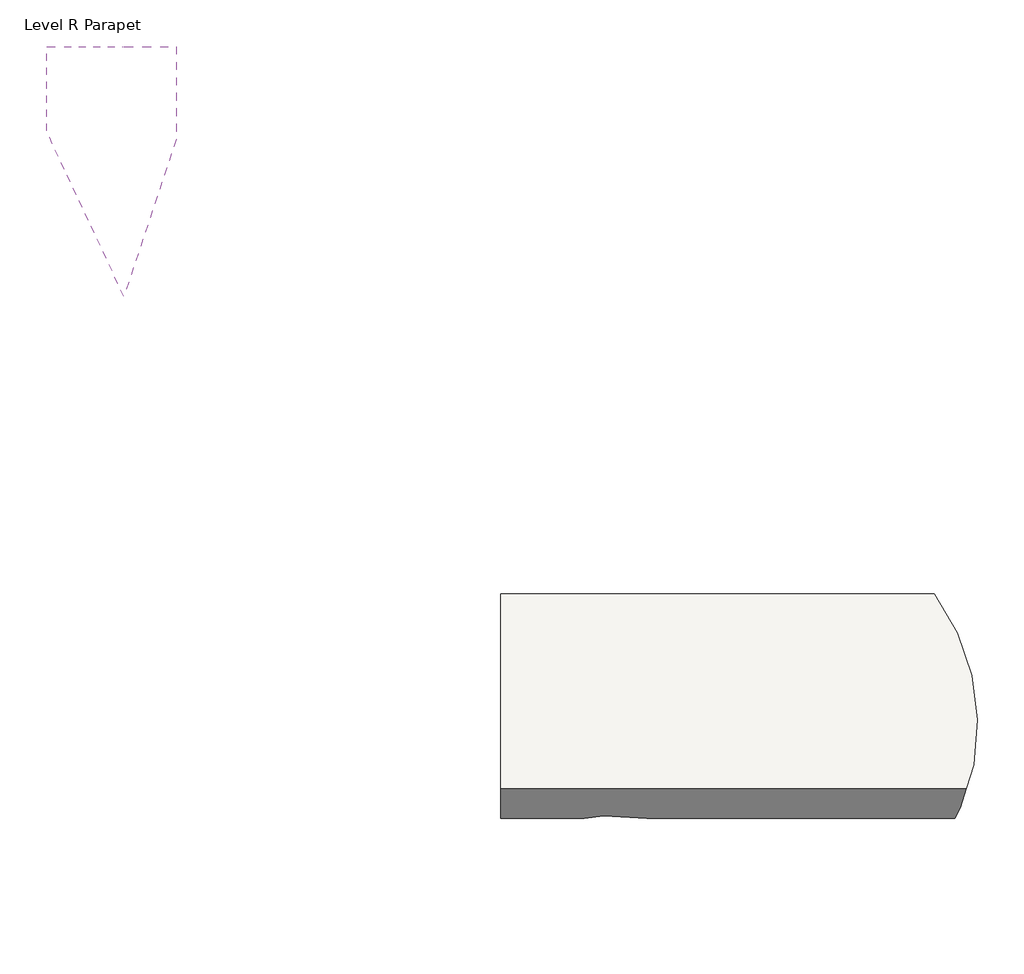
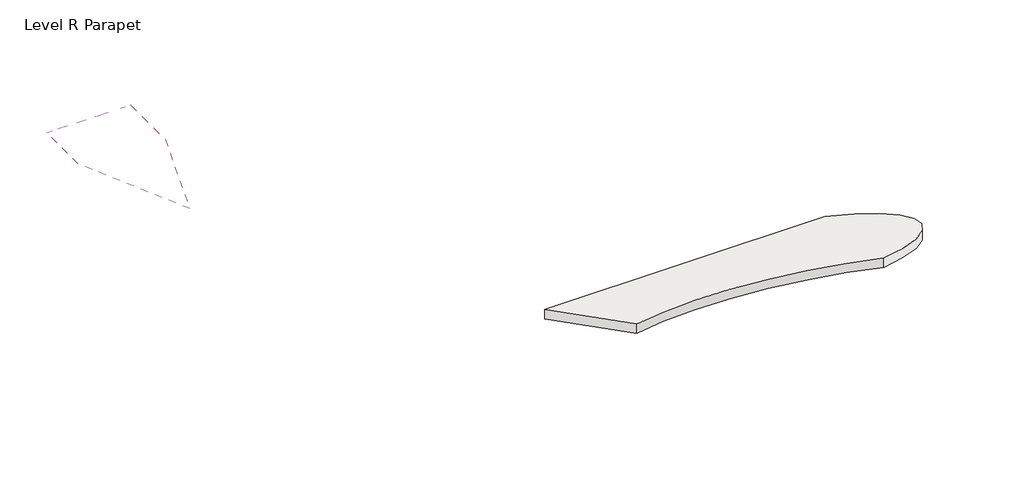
# One storey: 2 roofs.
"""IFC4 building model written with IfcOpenShell, lengths in millimetres."""

import ifcopenshell
import ifcopenshell.guid

model = None  # the IFC model being written
_history = None  # IfcOwnerHistory: only IFC2X3 demands one
_inside = {}  # id of a spatial element -> (the spatial element, [elements in it])
_under = {}  # id of a project, library or spatial element -> (it, [spatial elements below it])
_declared = {}  # id of a project -> (the project, [libraries it declares])
_typed = {}  # id of a type object -> (the type object, [elements of that type])
_made_of = {}  # id of a material, layer set ... -> (it, [elements and type objects made of it])


def new_model(schema):
    """Start an empty IFC model of exactly this schema.

    Asked for "IFC4X3", IfcOpenShell would pick the latest addendum, in which some entities
    have other attributes; the version numbers below select the first issue.
    IFC2X3 requires an IfcOwnerHistory on every rooted entity: one is made here for all.
    """
    global model, _history
    if schema == "IFC4X3":
        model = ifcopenshell.file(schema_version=(4, 3, 0, 0))
    else:
        model = ifcopenshell.file(schema=schema)
    _inside.clear()
    _under.clear()
    _declared.clear()
    _typed.clear()
    _made_of.clear()
    _history = None
    if model.schema == "IFC2X3":
        org = make("IfcOrganization", Name="unknown")
        user = make(
            "IfcPersonAndOrganization",
            ThePerson=make("IfcPerson", FamilyName="unknown"),
            TheOrganization=org,
        )
        app = make(
            "IfcApplication",
            ApplicationDeveloper=org,
            Version="unknown",
            ApplicationFullName="unknown",
            ApplicationIdentifier="unknown",
        )
        _history = make(
            "IfcOwnerHistory",
            OwningUser=user,
            OwningApplication=app,
            ChangeAction="ADDED",
            CreationDate=0,
        )
    return model


def make(cls, **values):
    """One entity of the class cls with the attributes given. An attribute that is None is left unset."""
    return model.create_entity(
        cls, **{name: value for name, value in values.items() if value is not None}
    )


def rooted(cls, **values):
    """An entity with a GlobalId (a new one), such as an element, a storey or a relation."""
    return make(cls, GlobalId=ifcopenshell.guid.new(), OwnerHistory=_history, **values)


def si_unit(unit_type, name, prefix=None):
    """IfcSIUnit, for example si_unit("LENGTHUNIT", "METRE", prefix="MILLI")."""
    return make("IfcSIUnit", UnitType=unit_type, Prefix=prefix, Name=name)


def assignment(units):
    """IfcUnitAssignment: the units of a project."""
    return None if units is None else make("IfcUnitAssignment", Units=units)


def point(xyz):
    """IfcCartesianPoint."""
    return None if xyz is None else make("IfcCartesianPoint", Coordinates=xyz)


def direction(xyz):
    """IfcDirection."""
    return None if xyz is None else make("IfcDirection", DirectionRatios=xyz)


def frame(location, z_axis=None, x_axis=None):
    """IfcAxis2Placement3D, a coordinate frame: its origin and axes. An axis left out is left unset."""
    return make(
        "IfcAxis2Placement3D",
        Location=point(location),
        Axis=direction(z_axis),
        RefDirection=direction(x_axis),
    )


def origin():
    """The frame at (0, 0, 0) with its axes left unset."""
    return frame((0.0, 0.0, 0.0))


def place(relative_to, where):
    """IfcLocalPlacement: puts the frame where relative to a parent placement (None: the world)."""
    return make(
        "IfcLocalPlacement", PlacementRelTo=relative_to, RelativePlacement=where
    )


def context(
    kind, dimensions, precision=None, world=None, true_north=None, identifier=None
):
    """IfcGeometricRepresentationContext, for example the 3D "Model" context."""
    return make(
        "IfcGeometricRepresentationContext",
        ContextIdentifier=identifier,
        ContextType=kind,
        CoordinateSpaceDimension=dimensions,
        Precision=precision,
        WorldCoordinateSystem=world,
        TrueNorth=true_north,
    )


def project(units=None, contexts=None):
    """IfcProject with its units and contexts."""
    return rooted(
        "IfcProject",
        Name="project",
        RepresentationContexts=contexts,
        UnitsInContext=assignment(units),
    )


def spatial(cls, under=None, at=None, **own):
    """A site, building, storey or space (cls), placed at a placement, below another one or the project."""
    s = rooted(cls, ObjectPlacement=at, **own)
    if under is not None:
        _under.setdefault(under.id(), (under, []))[1].append(s)
    return s


def polyline(points):
    """IfcPolyline through the points."""
    return make("IfcPolyline", Points=[point(p) for p in points])


def ellipse_curve(where, semi_axis1, semi_axis2):
    """IfcEllipse in the frame where."""
    return make(
        "IfcEllipse", Position=where, SemiAxis1=semi_axis1, SemiAxis2=semi_axis2
    )


def faces_of(points, faces, orient=None, outer=None):
    """IfcFace entities. A face is a list of loops; a loop is a list of indices into points, from 0.

    orient and outer hold one flag for each loop. By default every Orientation is true, the
    first loop of a face is its IfcFaceOuterBound and the others are IfcFaceBound.
    """
    made = []
    for i, loops in enumerate(faces):
        bounds = []
        for j, loop in enumerate(loops):
            is_outer = j == 0 if outer is None else outer[i][j]
            bounds.append(
                make(
                    "IfcFaceOuterBound" if is_outer else "IfcFaceBound",
                    Bound=make("IfcPolyLoop", Polygon=[points[k] for k in loop]),
                    Orientation=True if orient is None else orient[i][j],
                )
            )
        made.append(make("IfcFace", Bounds=bounds))
    return made


def faceted_brep(points, faces, orient=None, outer=None, voids=None):
    """IfcFacetedBrep: a solid bounded by flat faces; with voids (closed shells), ...WithVoids."""
    shared = [point(p) for p in points]
    hull = make("IfcClosedShell", CfsFaces=faces_of(shared, faces, orient, outer))
    if voids is None:
        return make("IfcFacetedBrep", Outer=hull)
    return make(
        "IfcFacetedBrepWithVoids",
        Outer=hull,
        Voids=[
            make(cls, CfsFaces=faces_of(shared, fs, o, b)) for cls, fs, o, b in voids
        ],
    )


def shape(context_of_items, identifier, shape_type, items):
    """IfcShapeRepresentation: the items that make up one representation, for example the "Body"."""
    return make(
        "IfcShapeRepresentation",
        ContextOfItems=context_of_items,
        RepresentationIdentifier=identifier,
        RepresentationType=shape_type,
        Items=items,
    )


def made_of(thing, what):
    """Note that an element or type object is made of a material, layer set ...; save() writes the relation."""
    if what is not None:
        _made_of.setdefault(what.id(), (what, []))[1].append(thing)
    return thing


def element(
    cls,
    number,
    at=None,
    inside=None,
    cuts=None,
    type_object=None,
    material=None,
    context=None,
    identifier="Body",
    shape_type=None,
    held_by="IfcProductDefinitionShape",
    body=None,
    shapes=None,
    **own,
):
    """One element of the class cls, such as IfcWall. Its Tag is "e" and its number.

    at: its placement. inside: the storey or other place that contains it. cuts: it is an
    opening in that element (IfcRelVoidsElement). A single representation is given by context,
    identifier, shape_type and body (its items); several are given by shapes. held_by: the class
    of the entity that holds the representations. save() writes the other relations.
    """
    e = rooted(cls, Tag="e%d" % number, ObjectPlacement=at, **own)
    if body is not None:
        shapes = [shape(context, identifier, shape_type, body)]
    if shapes is not None:
        e.Representation = make(held_by, Representations=shapes)
    if inside is not None:
        _inside.setdefault(inside.id(), (inside, []))[1].append(e)
    if cuts is not None:
        rooted(
            "IfcRelVoidsElement", RelatingBuildingElement=cuts, RelatedOpeningElement=e
        )
    if type_object is not None:
        _typed.setdefault(type_object.id(), (type_object, []))[1].append(e)
    return made_of(e, material)


def aggregate(whole, parts):
    """IfcRelAggregates: a whole, such as a stair, and the parts it consists of."""
    return rooted("IfcRelAggregates", RelatingObject=whole, RelatedObjects=parts)


def save(model, path):
    """Write the relations noted so far, then the file.

    IfcRelAggregates (storeys below a building ...), IfcRelContainedInSpatialStructure (elements
    in a storey), IfcRelDefinesByType, IfcRelAssociatesMaterial and IfcRelDeclares: one each for
    every whole, place, type object, material and project.
    """
    for whole, parts in _under.values():
        aggregate(whole, parts)
    for where, things in _inside.values():
        rooted(
            "IfcRelContainedInSpatialStructure",
            RelatedElements=things,
            RelatingStructure=where,
        )
    for kind, things in _typed.values():
        rooted("IfcRelDefinesByType", RelatedObjects=things, RelatingType=kind)
    for what, things in _made_of.values():
        rooted("IfcRelAssociatesMaterial", RelatedObjects=things, RelatingMaterial=what)
    for by, libraries in _declared.values():
        rooted("IfcRelDeclares", RelatingContext=by, RelatedDefinitions=libraries)
    model.write(path)


def plane_surface(at):
    """IfcPlane: the flat surface through the origin of the frame at, square to its z axis."""
    return make("IfcPlane", Position=at)


def cylinder_surface(at, radius):
    """IfcCylindricalSurface: all points at the distance radius from the z axis of the frame at."""
    return make("IfcCylindricalSurface", Position=at, Radius=radius)


def revolved_surface(curve, axis_point, axis_direction):
    """IfcSurfaceOfRevolution: the curve turned about the line through axis_point along axis_direction."""
    return make(
        "IfcSurfaceOfRevolution",
        SweptCurve=make("IfcArbitraryOpenProfileDef", ProfileType="CURVE", Curve=curve),
        AxisPosition=make("IfcAxis1Placement", Location=point(axis_point), Axis=direction(axis_direction)),
    )


def advanced_brep(points, edges, surfaces, faces):
    """IfcAdvancedBrep: a solid bounded by faces that lie on surfaces and meet in shared edges.

    An edge is (start, end): straight between two places in points (the first is 0);
    or (start, end, curve); or (start, end, curve, False) where it runs against its curve.
    A face is (place in surfaces, loops), or (place, loops, False) where it looks against
    its surface's normal. A loop lists edges by number (the first is 1), with a minus sign
    where the edge is run from its end to its start. The first loop is the outer one.
    """
    corners = [point(p) for p in points]
    vertices = [make("IfcVertexPoint", VertexGeometry=c) for c in corners]
    made = []
    for start, end, *more in edges:
        made.append(
            make(
                "IfcEdgeCurve",
                EdgeStart=vertices[start],
                EdgeEnd=vertices[end],
                EdgeGeometry=more[0] if more else make("IfcPolyline", Points=[corners[start], corners[end]]),
                SameSense=more[1] if len(more) > 1 else True,
            )
        )
    hull = []
    for where, loops, *sense in faces:
        bounds = []
        for j, loop in enumerate(loops):
            ring = [make("IfcOrientedEdge", EdgeElement=made[abs(k) - 1], Orientation=k > 0) for k in loop]
            bounds.append(
                make(
                    "IfcFaceOuterBound" if j == 0 else "IfcFaceBound",
                    Bound=make("IfcEdgeLoop", EdgeList=ring),
                    Orientation=True,
                )
            )
        hull.append(make("IfcAdvancedFace", Bounds=bounds, FaceSurface=surfaces[where], SameSense=sense[0] if sense else True))
    return make("IfcAdvancedBrep", Outer=make("IfcClosedShell", CfsFaces=hull))


model = new_model("IFC4")

# Units and contexts
model_context = context("Model", 3, world=origin())
ifc_project = project(units=[si_unit("LENGTHUNIT", "METRE", prefix="MILLI")], contexts=[model_context])

# Site, building, storey
site = spatial("IfcSite", under=ifc_project)
building = spatial("IfcBuilding", under=site)
storey = spatial("IfcBuildingStorey", under=building, Name="Level R Parapet", Elevation=7700.0)

# Roofs
placement = place(None, origin())
element("IfcRoof", 1, ObjectType="Generic - 400mm", at=placement, inside=storey, context=model_context, shape_type="AdvancedBrep", body=[
    advanced_brep(
    [(14516.0016487, 13845.7719705, 6000.0), (14516.0016487, 13845.7719705, 5551.0695049), (14516.0016487, 6637.1117558, 9224.0653411), (14516.0016487, 6637.1117558, 9672.9958362), (24226.9679381, 4077.9018011, 10976.9784387), (27203.0397407, 13845.7719705, 6000.0), (27203.0397407, 13845.7719705, 5551.0695049), (24226.9679381, 4077.9018011, 10528.0479436)],
    [
        (0, 1),
        (1, 2),
        (2, 3),
        (3, 0),
        (3, 4, ellipse_curve(frame((17812.7322385, -557.2066614, 13338.6841615), z_axis=(0.0, -0.4539904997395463, -0.8910065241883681), x_axis=(0.0, -0.8910065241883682, 0.4539904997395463)), 8881.7533155, 7913.7001503)),
        (4, 5, ellipse_curve(frame((22149.067056, 10048.3054534, 7934.9058341), z_axis=(0.0, 0.4539904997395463, 0.8910065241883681), x_axis=(0.0, 0.8910065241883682, -0.4539904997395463)), 7094.9654773, 6321.6605292)),
        (5, 0),
        (5, 6),
        (6, 1),
        (6, 7, ellipse_curve(frame((22149.067056, 10048.3054534, 7485.975339), z_axis=(0.0, -0.4539904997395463, -0.8910065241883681), x_axis=(0.0, 0.8910065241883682, -0.4539904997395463)), 7094.9654773, 6321.6605292)),
        (7, 2, ellipse_curve(frame((17812.7322385, -557.2066614, 12889.7536664), z_axis=(0.0, 0.4539904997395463, 0.8910065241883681), x_axis=(0.0, -0.8910065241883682, 0.4539904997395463)), 8881.7533155, 7913.7001503)),
        (7, 4),
    ],
    [
        plane_surface(frame((14516.0016487, 13845.7719705, 6000.0), z_axis=(-1.0, 0.0, 0.0), x_axis=(0.0, 0.8910065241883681, -0.4539904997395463))),
        plane_surface(frame((14516.0016487, -3528.8552511, 14852.8147449), z_axis=(0.0, 0.4539904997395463, 0.8910065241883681), x_axis=(1.0, 0.0, 0.0))),
        plane_surface(frame((14516.0016487, 13845.7719705, 6000.0), z_axis=(0.0, 1.0, 0.0), x_axis=(1.0, 0.0, 0.0))),
        plane_surface(frame((14516.0016487, 13845.7719705, 5551.0695049), z_axis=(0.0, -0.4539904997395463, -0.8910065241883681), x_axis=(1.0, 0.0, 0.0))),
        revolved_surface(polyline([(25726.4323888, -557.2066614, 17370.915787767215), (25726.4323888, -557.2066614, 8857.522040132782)]), (17812.7322385, -557.2066614, 5246.2695049), (0.0, 0.0, 1.0)),
        cylinder_surface(frame((22149.067056, 10048.3054534, 5246.2695049), z_axis=(0.0, 0.0, -1.0), x_axis=(1.0, 0.0, 0.0)), 6321.6605292),
    ],
    [
        (0, [[1, 2, 3, 4]]),
        (1, [[-4, 5, 6, 7]]),
        (2, [[-1, -7, 8, 9]]),
        (3, [[-2, -9, 10, 11]]),
        (4, [[12, -5, -3, -11]]),
        (5, [[-12, -10, -8, -6]]),
    ],
),
])
element("IfcRoof", 2, ObjectType="Generic - 400mm", at=placement, inside=storey, context=model_context, shape_type="Brep", body=[
    faceted_brep([(1206.864784, 29889.4963287, 9403.8120916), (3472.4181918, 29889.4963287, 12201.5375529), (5005.0103507, 29889.4963287, 9547.0100663), (4543.1301354, 29889.4963287, 9547.0100663), (3417.009836, 29889.4963287, 11497.5076403), (1721.5686104, 29889.4963287, 9403.8120916), (1206.864784, 27419.2796373, 9403.8120916), (3472.4181918, 22573.4769927, 12201.5375529), (5005.0103507, 27171.2534695, 9547.0100663), (3417.009836, 23792.8925715, 11497.5076403), (4543.1301354, 27171.2534695, 9547.0100663), (1721.5686104, 27419.2796373, 9403.8120916)], [[[0, 1, 2, 3, 4, 5]], [[1, 0, 6, 7]], [[2, 1, 7, 8]], [[9, 4, 3, 10]], [[4, 9, 11, 5]], [[3, 2, 8, 10]], [[0, 5, 11, 6]], [[7, 6, 11, 9, 10, 8]]]),
])

save(model, "model.ifc")
